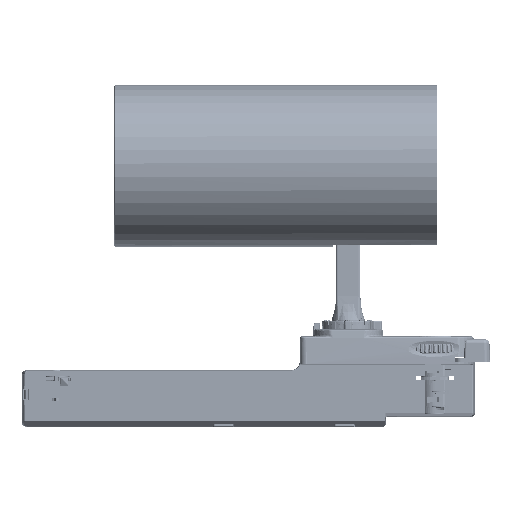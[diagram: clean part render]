
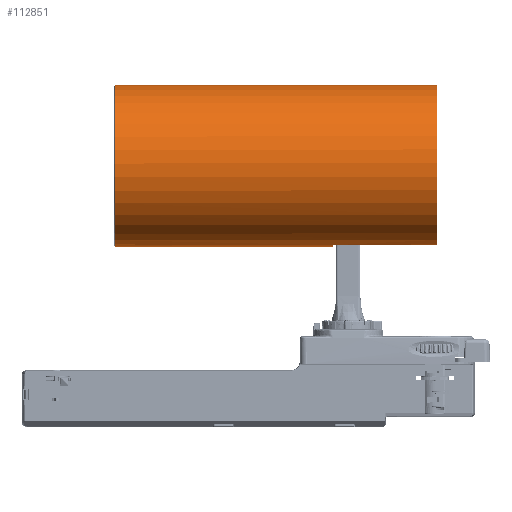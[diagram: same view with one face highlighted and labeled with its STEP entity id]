
A CAD part, top view. The second image highlights one B-rep face of the part: STEP entity #112851.
In plain terms, the highlighted cylindrical face has radius 40 mm (diameter 80 mm), a partial arc.
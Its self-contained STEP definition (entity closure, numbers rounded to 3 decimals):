
#94314=CARTESIAN_POINT('',(-89.7,0.,0.));
#94315=DIRECTION('',(-1.,0.,0.));
#94316=DIRECTION('',(0.,-0.974,0.225));
#94317=AXIS2_PLACEMENT_3D('',#94314,#94315,#94316);
#94322=CARTESIAN_POINT('',(68.017,-39.313,
7.382));
#94323=CARTESIAN_POINT('',(68.229,-39.313,
7.384));
#94324=CARTESIAN_POINT('',(68.631,-39.3,
7.45));
#94325=CARTESIAN_POINT('',(69.202,-39.244,
7.743));
#94326=CARTESIAN_POINT('',(69.642,-39.155,
8.184));
#94327=CARTESIAN_POINT('',(69.934,-39.031,
8.757));
#94328=CARTESIAN_POINT('',(70.,-38.936,9.166));
#94329=CARTESIAN_POINT('',(70.,-38.884,9.382));
#94334=CARTESIAN_POINT('',(18.5,-39.392,6.95));
#94335=CARTESIAN_POINT('',(35.006,-39.366,
7.094));
#94336=CARTESIAN_POINT('',(51.512,-39.34,
7.238));
#94337=CARTESIAN_POINT('',(68.017,-39.313,
7.382));
#94342=CARTESIAN_POINT('',(18.5,0.,0.));
#94343=DIRECTION('',(1.,0.,0.));
#94344=DIRECTION('',(0.,-0.985,0.174));
#94345=AXIS2_PLACEMENT_3D('',#94342,#94343,#94344);
#94358=DIRECTION('',(1.,0.,0.));
#94359=VECTOR('',#94358,108.2);
#94360=CARTESIAN_POINT('',(-89.7,-40.,0.));
#94361=LINE('',#94360,#94359);
#94393=DIRECTION('',(-1.,0.,0.));
#94394=VECTOR('',#94393,159.7);
#94395=CARTESIAN_POINT('',(70.,40.,0.));
#94396=LINE('',#94395,#94394);
#94408=CARTESIAN_POINT('',(-89.7,0.,0.));
#94409=DIRECTION('',(1.,0.,0.));
#94410=DIRECTION('',(0.,-0.974,0.225));
#94411=AXIS2_PLACEMENT_3D('',#94408,#94409,#94410);
#94566=CARTESIAN_POINT('',(70.,0.,0.));
#94567=DIRECTION('',(1.,0.,0.));
#94568=DIRECTION('',(0.,1.,0.));
#94569=AXIS2_PLACEMENT_3D('',#94566,#94567,#94568);
#110950=CARTESIAN_POINT('',(18.5,-40.,0.));
#110952=VERTEX_POINT('',#110950);
#110954=CARTESIAN_POINT('',(18.5,-39.392,6.95));
#110955=VERTEX_POINT('',#110954);
#110974=CARTESIAN_POINT('',(70.,40.,0.));
#110975=CARTESIAN_POINT('',(-89.7,40.,0.));
#110976=VERTEX_POINT('',#110974);
#110977=VERTEX_POINT('',#110975);
#110985=CARTESIAN_POINT('',(68.017,-39.313,
7.382));
#110986=VERTEX_POINT('',#110985);
#110987=VERTEX_POINT('',#94329);
#111138=CARTESIAN_POINT('',(-89.7,-38.974,9.));
#111139=VERTEX_POINT('',#111138);
#112764=CARTESIAN_POINT('',(-89.7,-40.,0.));
#112765=VERTEX_POINT('',#112764);
#112829=CARTESIAN_POINT('',(0.,0.,0.));
#112830=DIRECTION('',(1.,0.,0.));
#112831=DIRECTION('',(0.,-1.,0.));
#112832=AXIS2_PLACEMENT_3D('',#112829,#112830,#112831);
#112833=CYLINDRICAL_SURFACE('',#112832,40.);
#112835=ORIENTED_EDGE('',*,*,#112834,.F.);
#112837=ORIENTED_EDGE('',*,*,#112836,.F.);
#112838=ORIENTED_EDGE('',*,*,#112817,.T.);
#112840=ORIENTED_EDGE('',*,*,#112839,.F.);
#112842=ORIENTED_EDGE('',*,*,#112841,.T.);
#112844=ORIENTED_EDGE('',*,*,#112843,.F.);
#112846=ORIENTED_EDGE('',*,*,#112845,.F.);
#112848=ORIENTED_EDGE('',*,*,#112847,.T.);
#112849=EDGE_LOOP('',(#112835,#112837,#112838,#112840,#112842,#112844,#112846,
#112848));
#112850=FACE_OUTER_BOUND('',#112849,.F.);
#94318=CIRCLE('',#94317,40.);
#94330=B_SPLINE_CURVE_WITH_KNOTS('',3,(#94322,#94323,#94324,#94325,#94326,
#94327,#94328,#94329),.UNSPECIFIED.,.F.,.F.,(4,1,1,1,1,4),(0.,0.2,0.4,
0.6,0.8,1.),.UNSPECIFIED.);
#94338=B_SPLINE_CURVE_WITH_KNOTS('',3,(#94334,#94335,#94336,#94337),
.UNSPECIFIED.,.F.,.F.,(4,4),(0.,1.),.UNSPECIFIED.);
#94346=CIRCLE('',#94345,40.);
#94412=CIRCLE('',#94411,40.);
#94570=CIRCLE('',#94569,40.);
#112817=EDGE_CURVE('',#111139,#110977,#94318,.T.);
#112834=EDGE_CURVE('',#112765,#110952,#94361,.T.);
#112836=EDGE_CURVE('',#111139,#112765,#94412,.T.);
#112839=EDGE_CURVE('',#110976,#110977,#94396,.T.);
#112841=EDGE_CURVE('',#110976,#110987,#94570,.T.);
#112843=EDGE_CURVE('',#110986,#110987,#94330,.T.);
#112845=EDGE_CURVE('',#110955,#110986,#94338,.T.);
#112847=EDGE_CURVE('',#110955,#110952,#94346,.T.);
#112851=ADVANCED_FACE('',(#112850),#112833,.T.);
